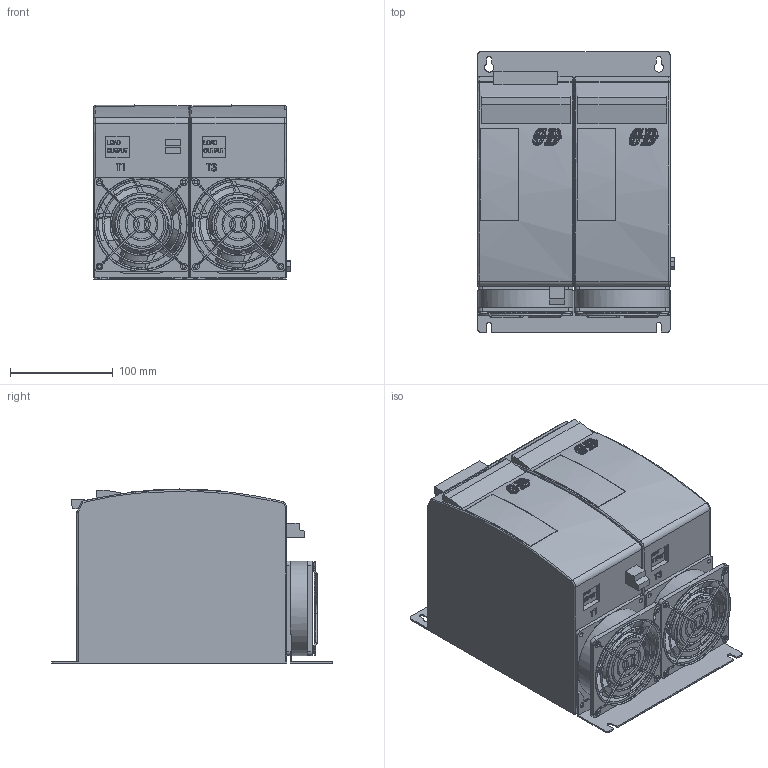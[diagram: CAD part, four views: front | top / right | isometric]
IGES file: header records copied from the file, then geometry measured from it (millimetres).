
Global section: file name: SR16 90A-210A 2PH; native system: AutoCAD 2015 - Italiano (Italian); preprocessor: Autodesk Translation Framework DWG producer (atf_dwg_producer); organization: unknown; date: 20180117.122309; units: millimetre
Bounding box: 191 x 273 x 169.37 mm (x, y, z)
Volume: 6497083.2 mm3; surface area: 373613.8 mm2
Topology: 17 solids, 17 shells, 2634 faces, 7360 edges, 4876 vertices
Faces by surface type: bspline 2634
